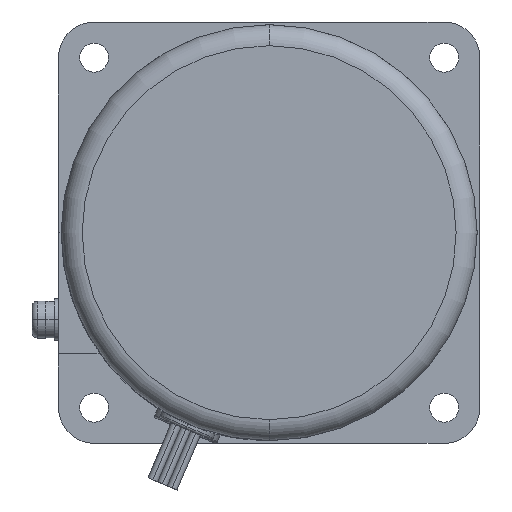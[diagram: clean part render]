
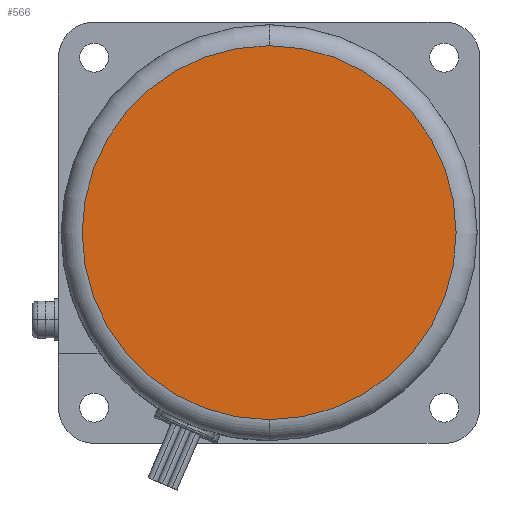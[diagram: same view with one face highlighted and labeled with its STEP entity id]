
A CAD part, left-side view. The second image highlights one B-rep face of the part: STEP entity #566.
In plain terms, the highlighted planar face has unit normal (-1, 0, 0).
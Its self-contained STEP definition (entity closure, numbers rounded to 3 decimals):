
#546=CARTESIAN_POINT('POINT672599',(-132.,0.,
   35.5));
#547=VERTEX_POINT('VERTEX672599',#546);
#548=CARTESIAN_POINT('POINT672600',(-132.,0.,
   -35.5));
#549=VERTEX_POINT('VERTEX672600',#548);
#550=CARTESIAN_POINT('POS1108604',(-132.,0.,0.));
#551=DIRECTION('DIR1661030',(-1.,0.,0.));
#552=DIRECTION('DIR1661031',(0.,0.,-1.));
#553=AXIS2_PLACEMENT_3D('AXIS552427',#550,#551,#552);
#554=CIRCLE('ELLIPSE249852',#553,35.5);
#555=EDGE_CURVE('EDGE1033353',#547,#549,#554,.T.);
#556=ORIENTED_EDGE('COEDGE2067413',*,*,#555,.T.);
#557=EDGE_CURVE('EDGE1033354',#549,#547,#554,.T.);
#558=ORIENTED_EDGE('COEDGE2067414',*,*,#557,.T.);
#559=EDGE_LOOP('NONE',(#556,#558));
#560=FACE_BOUND('LOOP1',#559,.T.);
#561=CARTESIAN_POINT('POS1108605',(-132.,0.,-19.745));
#562=DIRECTION('DIR1661032',(-1.,0.,0.));
#563=DIRECTION('DIR1661033',(0.,1.,0.));
#564=AXIS2_PLACEMENT_3D('AXIS552428',#561,#562,#563);
#565=PLANE('PLANE190372',#564);
#566=ADVANCED_FACE('FACE422097',(#560),#565,.T.);
